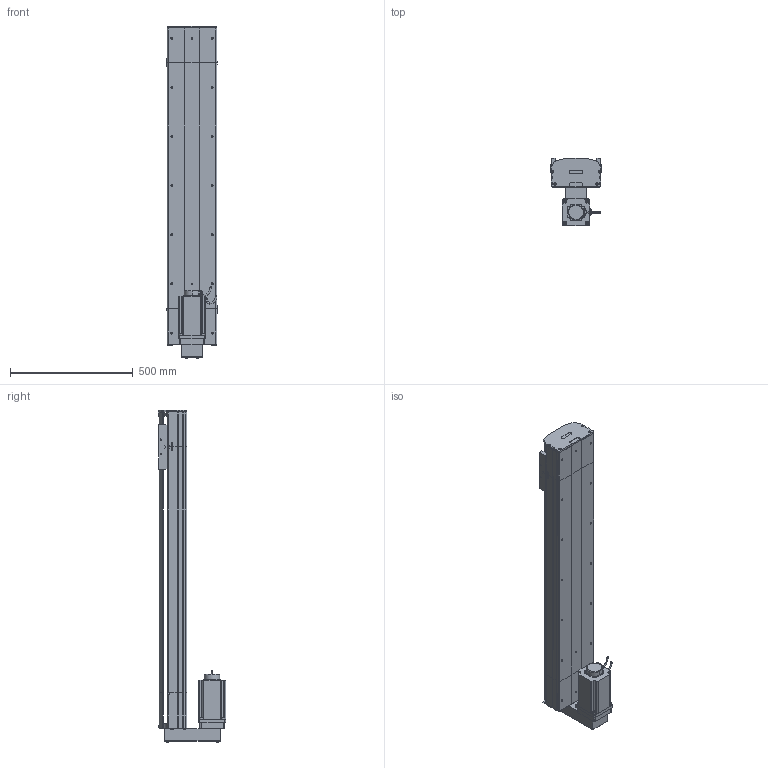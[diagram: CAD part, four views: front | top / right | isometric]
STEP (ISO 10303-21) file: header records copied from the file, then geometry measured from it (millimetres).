
FILE_DESCRIPTION (( 'STEP AP214' ), '1' );
FILE_NAME ('D20 TSH BM S1000.STEP', '2010-06-30T08:39:19', ( 'Conseil Régional Haute-Normandie' ), ( 'Conseil Régional Haute-Normandie' ), 'SwSTEP 2.0', 'SolidWorks 2010', '' );
FILE_SCHEMA (( 'AUTOMOTIVE_DESIGN' ));
Length unit declared in the file: millimetre
Products named in the file (35): rail + arbre  D20 S1000; clavette; corp D20 S1000_Default; corpl tail D20_Default; couvercle D20 S1000_Default; plaque de  bout head BR D20_Default; corpl head MD D20_Default; corps 110BLDC170A-630x; Conecteur2_Default; vis M5 L8 90°_Default; Moteur motionking 110BLDC170A-640x; vis M8 L12_Default; Arbre+rail head D20; codeur 110BLDC170A-630x; couvercle head l D20_Default; head BM D20_Default; avant 110BLDC170A-630x; Conecteur_Default; Plaque racord D20_Default; vis M5 L70_Default; tail D20 S_Default; renvoi  BM_Default; tete d''axe haut D20; vis M5 L25_Default; 2 vis M5 L12_Default; plaque de  bout tail D20_Default; couvercle tail D20_Default; tete d''axe bas D20; Arbre+rail tail D20; Chariot D20; chariot D20S_Default; guide D20; vis M5 L12_Default; course D20 L1000_Default; D20 TSH BM S1000
Assembly tree (59 placements, depth 4):
  D20 TSH BM S1000
    chariot D20S_Default
      vis M5 L12_Default  x4
      guide D20  x2
      Chariot D20
    tail D20 S_Default
      couvercle tail D20_Default
      2 vis M5 L12_Default  x4
      corpl tail D20_Default
      tete d''axe haut D20
      vis M5 L25_Default  x2
      plaque de  bout tail D20_Default
      Arbre+rail tail D20
      tete d''axe bas D20
      vis M5 L8 90°_Default  x2
    head BM D20_Default
      2 vis M5 L12_Default  x6
      vis M5 L25_Default  x2
      vis M5 L70_Default  x4
      corpl head MD D20_Default
      renvoi  BM_Default
      plaque de  bout head BR D20_Default
      Plaque racord D20_Default
      vis M5 L12_Default  x2
      vis M8 L12_Default  x4
      couvercle head l D20_Default
      Moteur motionking 110BLDC170A-640x
        Conecteur_Default
        Conecteur2_Default
        codeur 110BLDC170A-630x
        avant 110BLDC170A-630x
        clavette
        corps 110BLDC170A-630x
      Arbre+rail head D20
    course D20 L1000_Default
      corp D20 S1000_Default
      rail + arbre  D20 S1000
      couvercle D20 S1000_Default
Bounding box: 206 x 273.7 x 1351.7 mm (x, y, z)
Volume: 13139369.7 mm3; surface area: 2740991.9 mm2
Topology: 84 solids, 84 shells, 2332 faces, 5879 edges, 3797 vertices
Faces by surface type: plane 1384, cylinder 660, bspline 136, torus 77, cone 71, sphere 4
Entity records: 76084 total; most frequent: CARTESIAN_POINT 24954, ORIENTED_EDGE 9054, DIRECTION 8520, EDGE_CURVE 4527, VERTEX_POINT 2979, VECTOR 2974, LINE 2974, AXIS2_PLACEMENT_3D 2773
